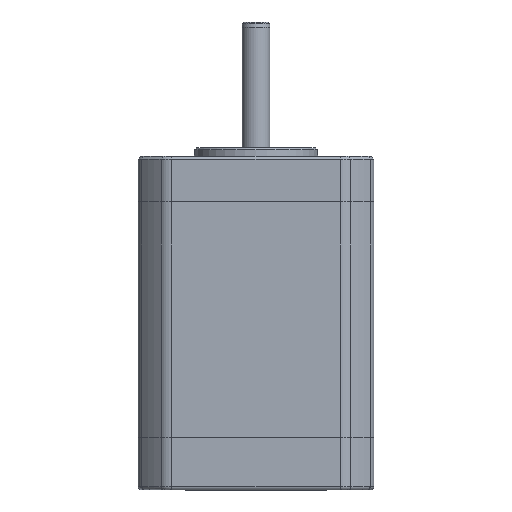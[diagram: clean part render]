
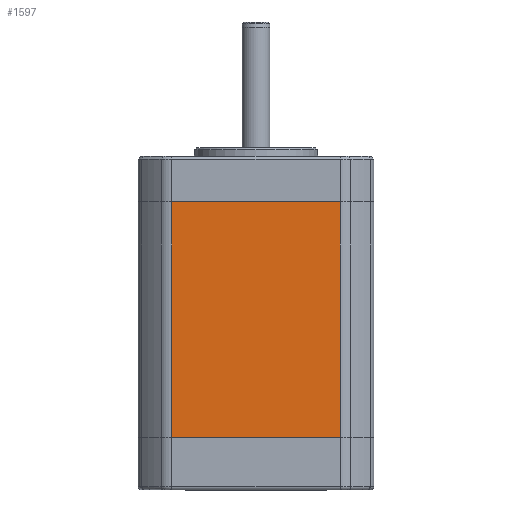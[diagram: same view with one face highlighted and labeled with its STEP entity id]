
A CAD part, front view. The second image highlights one B-rep face of the part: STEP entity #1597.
In plain terms, the highlighted planar face has unit normal (0, -1, 0).
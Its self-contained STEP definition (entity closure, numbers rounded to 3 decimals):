
#120 = PLANE ( 'NONE',  #10723 ) ;
#412 = VERTEX_POINT ( 'NONE', #12957 ) ;
#429 = FACE_OUTER_BOUND ( 'NONE', #11420, .T. ) ;
#642 = CARTESIAN_POINT ( 'NONE',  ( 15.018, -21.075, -8.15 ) ) ;
#761 = VERTEX_POINT ( 'NONE', #11292 ) ;
#1597 = ADVANCED_FACE ( 'NONE', ( #429 ), #120, .F. ) ;
#2152 = VECTOR ( 'NONE', #3809, 1000. ) ;
#2182 = CARTESIAN_POINT ( 'NONE',  ( 16.065, -21.075, -50.15 ) ) ;
#2585 = DIRECTION ( 'NONE',  ( -1., 0., 0. ) ) ;
#2643 = ORIENTED_EDGE ( 'NONE', *, *, #10168, .F. ) ;
#3108 = DIRECTION ( 'NONE',  ( 0., 0., -1. ) ) ;
#3371 = DIRECTION ( 'NONE',  ( 0., 1., 0. ) ) ;
#3809 = DIRECTION ( 'NONE',  ( -1., 0., 0. ) ) ;
#4194 = DIRECTION ( 'NONE',  ( 0., 0., 1. ) ) ;
#4234 = ORIENTED_EDGE ( 'NONE', *, *, #11297, .T. ) ;
#4263 = ORIENTED_EDGE ( 'NONE', *, *, #10613, .T. ) ;
#4518 = CARTESIAN_POINT ( 'NONE',  ( -15.018, -21.075, -50.15 ) ) ;
#4663 = CARTESIAN_POINT ( 'NONE',  ( 16.065, -21.075, -8.15 ) ) ;
#5332 = LINE ( 'NONE', #12357, #7127 ) ;
#7097 = VECTOR ( 'NONE', #2585, 1000. ) ;
#7127 = VECTOR ( 'NONE', #3108, 1000. ) ;
#7269 = LINE ( 'NONE', #9553, #12408 ) ;
#9553 = CARTESIAN_POINT ( 'NONE',  ( 15.018, -21.075, -50.15 ) ) ;
#9929 = CARTESIAN_POINT ( 'NONE',  ( 16.065, -21.075, -50.15 ) ) ;
#9991 = VERTEX_POINT ( 'NONE', #4518 ) ;
#10168 = EDGE_CURVE ( 'NONE', #412, #9991, #10320, .T. ) ;
#10320 = LINE ( 'NONE', #9929, #2152 ) ;
#10403 = EDGE_CURVE ( 'NONE', #761, #9991, #5332, .T. ) ;
#10613 = EDGE_CURVE ( 'NONE', #412, #12958, #7269, .T. ) ;
#10723 = AXIS2_PLACEMENT_3D ( 'NONE', #2182, #3371, #4194 ) ;
#11288 = ORIENTED_EDGE ( 'NONE', *, *, #10403, .T. ) ;
#11292 = CARTESIAN_POINT ( 'NONE',  ( -15.018, -21.075, -8.15 ) ) ;
#11297 = EDGE_CURVE ( 'NONE', #12958, #761, #12561, .T. ) ;
#11420 = EDGE_LOOP ( 'NONE', ( #4234, #11288, #2643, #4263 ) ) ;
#12357 = CARTESIAN_POINT ( 'NONE',  ( -15.018, -21.075, -50.15 ) ) ;
#12408 = VECTOR ( 'NONE', #12722, 1000. ) ;
#12561 = LINE ( 'NONE', #4663, #7097 ) ;
#12722 = DIRECTION ( 'NONE',  ( 0., 0., 1. ) ) ;
#12957 = CARTESIAN_POINT ( 'NONE',  ( 15.018, -21.075, -50.15 ) ) ;
#12958 = VERTEX_POINT ( 'NONE', #642 ) ;
